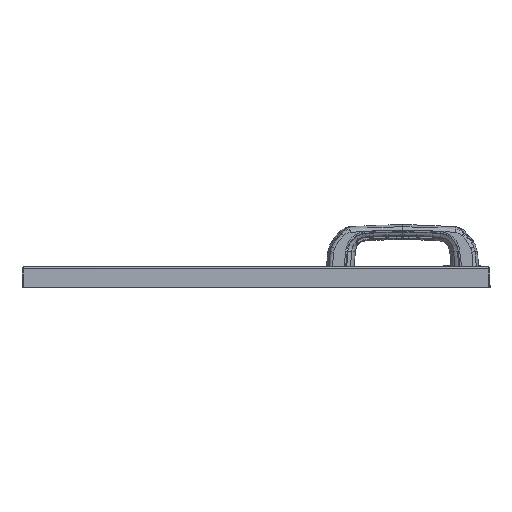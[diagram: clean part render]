
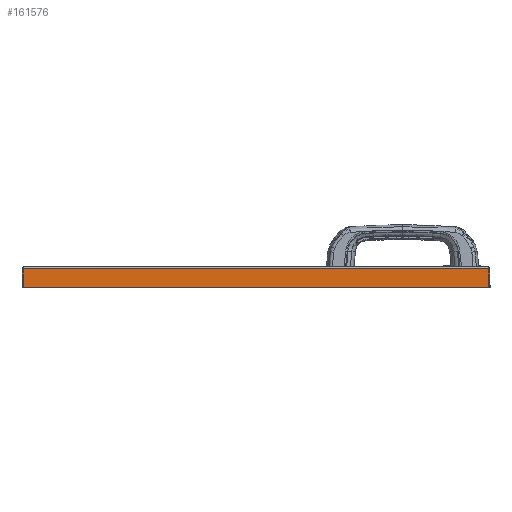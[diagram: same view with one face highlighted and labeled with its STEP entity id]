
A CAD part, left-side view. The second image highlights one B-rep face of the part: STEP entity #161576.
In plain terms, the highlighted planar face has unit normal (-1, 0, 0).
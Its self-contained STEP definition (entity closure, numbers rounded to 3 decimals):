
#156926=CARTESIAN_POINT(' ',(0.,447.,-2.3));
#156927=VERTEX_POINT(' ',#156926);
#156941=CARTESIAN_POINT(' ',(0.,447.,-2.3));
#156946=DIRECTION(' ',(0.,-1.,0.));
#156951=VECTOR(' ',#156946,1.);
#156956=LINE('',#156941,#156951);
#156961=CARTESIAN_POINT(' ',(0.,0.,-2.3));
#156962=VERTEX_POINT(' ',#156961);
#156966=EDGE_CURVE(' ',#156927,#156962,#156956,.T.);
#161436=DIRECTION(' ',(-1.,-0.,-0.));
#161441=CARTESIAN_POINT(' ',(0.,0.,-2.3));
#161446=DIRECTION(' ',(-0.,1.,0.));
#161451=AXIS2_PLACEMENT_3D(' ',#161441,#161436,#161446);
#161456=PLANE('NONE',#161451);
#161461=CARTESIAN_POINT(' ',(0.,0.,-20.));
#161466=DIRECTION(' ',(0.,0.,1.));
#161471=VECTOR(' ',#161466,1.);
#161476=LINE('',#161461,#161471);
#161481=CARTESIAN_POINT(' ',(0.,0.,-20.));
#161482=VERTEX_POINT(' ',#161481);
#161486=EDGE_CURVE(' ',#161482,#156962,#161476,.T.);
#161491=ORIENTED_EDGE(' ',*,*,#161486,.T.);
#161496=ORIENTED_EDGE(' ',*,*,#156966,.F.);
#161501=CARTESIAN_POINT(' ',(0.,447.,-20.));
#161506=DIRECTION(' ',(0.,0.,1.));
#161511=VECTOR(' ',#161506,1.);
#161516=LINE('',#161501,#161511);
#161521=CARTESIAN_POINT(' ',(0.,447.,-20.));
#161522=VERTEX_POINT(' ',#161521);
#161526=EDGE_CURVE(' ',#161522,#156927,#161516,.T.);
#161531=ORIENTED_EDGE(' ',*,*,#161526,.F.);
#161536=CARTESIAN_POINT(' ',(0.,447.,-20.));
#161541=DIRECTION(' ',(0.,-1.,0.));
#161546=VECTOR(' ',#161541,1.);
#161551=LINE('',#161536,#161546);
#161556=EDGE_CURVE(' ',#161522,#161482,#161551,.T.);
#161561=ORIENTED_EDGE(' ',*,*,#161556,.T.);
#161566=EDGE_LOOP(' ',(#161491,#161496,#161531,#161561));
#161571=FACE_OUTER_BOUND(' ',#161566,.T.);
#161576=ADVANCED_FACE('NONE',(#161571),#161456,.T.);
